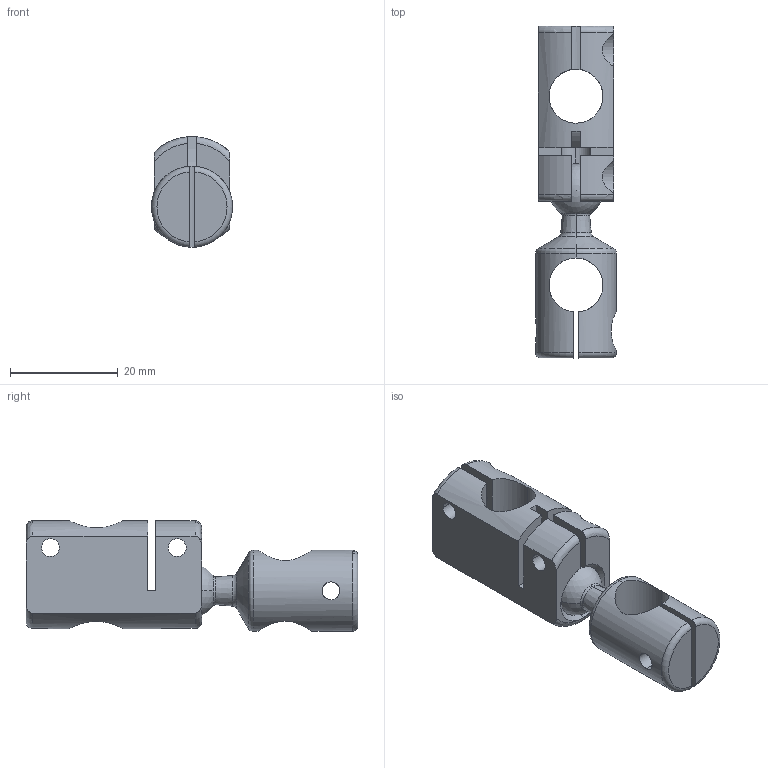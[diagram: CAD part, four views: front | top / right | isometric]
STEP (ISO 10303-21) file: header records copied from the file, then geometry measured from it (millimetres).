
FILE_DESCRIPTION (( 'STEP AP214' ), '1' );
FILE_NAME ('SBC363F.STEP', '2025-07-23T01:43:53', ( '' ), ( '' ), 'SwSTEP 2.0', 'SolidWorks 2024', '' );
FILE_SCHEMA (( 'AUTOMOTIVE_DESIGN' ));
Length unit declared in the file: millimetre
Products named in the file (3): BC10-863; SBC10-001; SBC363F
Assembly tree (2 placements, depth 2):
  SBC363F
    SBC10-001
    BC10-863
Bounding box: 15 x 61.47 x 20.5 mm (x, y, z)
Volume: 7362.3 mm3; surface area: 6151.1 mm2
Topology: 2 solids, 2 shells, 91 faces, 254 edges, 163 vertices
Faces by surface type: cylinder 39, plane 24, torus 16, cone 8, sphere 4
Entity records: 3514 total; most frequent: CARTESIAN_POINT 1122, DIRECTION 499, ORIENTED_EDGE 486, EDGE_CURVE 243, AXIS2_PLACEMENT_3D 203, VERTEX_POINT 156, CIRCLE 107, EDGE_LOOP 105
